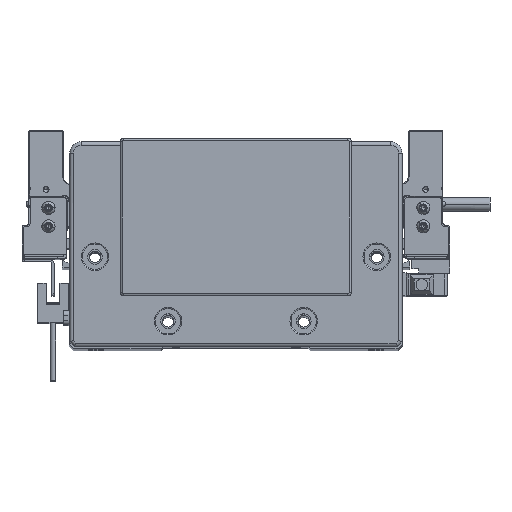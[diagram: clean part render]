
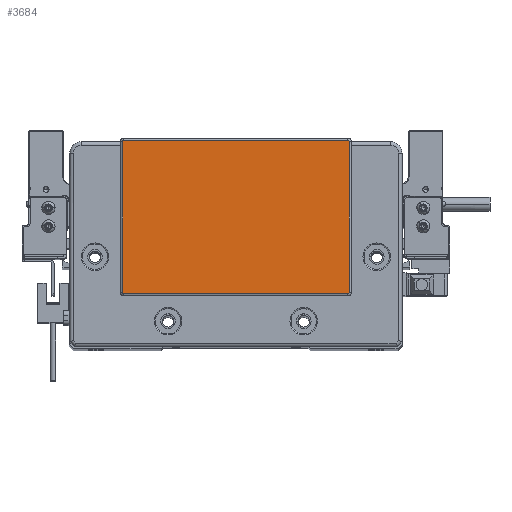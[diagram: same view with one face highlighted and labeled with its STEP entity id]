
A CAD part, top view. The second image highlights one B-rep face of the part: STEP entity #3684.
In plain terms, the highlighted planar face has unit normal (0, 0, 1) as drawn and (0, 0, -1) by its records, which use the part's own axes.
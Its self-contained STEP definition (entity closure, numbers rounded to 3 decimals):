
#722 = CARTESIAN_POINT ( 'NONE',  ( 48.75, 44.3, -2. ) ) ;
#1116 = VECTOR ( 'NONE', #20109, 1000. ) ;
#2124 = FACE_OUTER_BOUND ( 'NONE', #51289, .T. ) ;
#2521 = PLANE ( 'NONE',  #11505 ) ;
#3684 = ADVANCED_FACE ( 'NONE', ( #2124 ), #2521, .T. ) ;
#3773 = ORIENTED_EDGE ( 'NONE', *, *, #62090, .T. ) ;
#5589 = CARTESIAN_POINT ( 'NONE',  ( 49.25, -21.8, -2. ) ) ;
#5807 = EDGE_CURVE ( 'NONE', #69207, #40428, #40062, .T. ) ;
#6492 = CARTESIAN_POINT ( 'NONE',  ( 48.75, 44.3, -2. ) ) ;
#8270 = CARTESIAN_POINT ( 'NONE',  ( 48.75, 43.8, -2. ) ) ;
#9645 = CIRCLE ( 'NONE', #67420, 0.5 ) ;
#10090 = AXIS2_PLACEMENT_3D ( 'NONE', #75840, #16070, #22727 ) ;
#11505 = AXIS2_PLACEMENT_3D ( 'NONE', #43408, #19448, #68587 ) ;
#12524 = DIRECTION ( 'NONE',  ( -1., 0., 0. ) ) ;
#12961 = CARTESIAN_POINT ( 'NONE',  ( -49.25, 43.8, -2. ) ) ;
#13598 = AXIS2_PLACEMENT_3D ( 'NONE', #8270, #31497, #55459 ) ;
#13867 = EDGE_CURVE ( 'NONE', #54807, #45460, #9645, .T. ) ;
#16070 = DIRECTION ( 'NONE',  ( 0., 0., -1. ) ) ;
#18915 = EDGE_CURVE ( 'NONE', #27987, #71510, #72613, .T. ) ;
#18951 = CARTESIAN_POINT ( 'NONE',  ( -48.75, -22.3, -2. ) ) ;
#19161 = DIRECTION ( 'NONE',  ( 0., 0., -1. ) ) ;
#19448 = DIRECTION ( 'NONE',  ( 0., 0., -1. ) ) ;
#20065 = CARTESIAN_POINT ( 'NONE',  ( 49.25, 43.8, -2. ) ) ;
#20109 = DIRECTION ( 'NONE',  ( 0., -1., 0. ) ) ;
#21304 = CARTESIAN_POINT ( 'NONE',  ( -48.75, -22.3, -2. ) ) ;
#22003 = EDGE_CURVE ( 'NONE', #71510, #54807, #38174, .T. ) ;
#22298 = CIRCLE ( 'NONE', #23545, 0.5 ) ;
#22727 = DIRECTION ( 'NONE',  ( -1., 0., 0. ) ) ;
#23403 = EDGE_CURVE ( 'NONE', #40428, #59206, #31413, .T. ) ;
#23545 = AXIS2_PLACEMENT_3D ( 'NONE', #48252, #42364, #12524 ) ;
#25695 = DIRECTION ( 'NONE',  ( 1., 0., 0. ) ) ;
#27987 = VERTEX_POINT ( 'NONE', #6492 ) ;
#28266 = CARTESIAN_POINT ( 'NONE',  ( -49.25, 43.8, -2. ) ) ;
#30366 = VECTOR ( 'NONE', #74034, 1000. ) ;
#30384 = ORIENTED_EDGE ( 'NONE', *, *, #51763, .T. ) ;
#31413 = CIRCLE ( 'NONE', #10090, 0.5 ) ;
#31497 = DIRECTION ( 'NONE',  ( 0., 0., -1. ) ) ;
#33841 = CARTESIAN_POINT ( 'NONE',  ( 48.75, -22.3, -2. ) ) ;
#35817 = ORIENTED_EDGE ( 'NONE', *, *, #18915, .T. ) ;
#37118 = ORIENTED_EDGE ( 'NONE', *, *, #5807, .T. ) ;
#38035 = VECTOR ( 'NONE', #25695, 1000. ) ;
#38174 = LINE ( 'NONE', #73993, #1116 ) ;
#40062 = LINE ( 'NONE', #28266, #40406 ) ;
#40406 = VECTOR ( 'NONE', #70367, 1000. ) ;
#40428 = VERTEX_POINT ( 'NONE', #12961 ) ;
#42364 = DIRECTION ( 'NONE',  ( 0., 0., -1. ) ) ;
#43408 = CARTESIAN_POINT ( 'NONE',  ( 0., 0., -2. ) ) ;
#43987 = VERTEX_POINT ( 'NONE', #18951 ) ;
#45460 = VERTEX_POINT ( 'NONE', #33841 ) ;
#47094 = ORIENTED_EDGE ( 'NONE', *, *, #70462, .T. ) ;
#48252 = CARTESIAN_POINT ( 'NONE',  ( -48.75, -21.8, -2. ) ) ;
#49018 = CARTESIAN_POINT ( 'NONE',  ( 48.75, -21.8, -2. ) ) ;
#50880 = ORIENTED_EDGE ( 'NONE', *, *, #23403, .T. ) ;
#51289 = EDGE_LOOP ( 'NONE', ( #76603, #56397, #3773, #47094, #37118, #50880, #30384, #35817 ) ) ;
#51763 = EDGE_CURVE ( 'NONE', #59206, #27987, #71549, .T. ) ;
#54807 = VERTEX_POINT ( 'NONE', #5589 ) ;
#55459 = DIRECTION ( 'NONE',  ( -1., 0., 0. ) ) ;
#56397 = ORIENTED_EDGE ( 'NONE', *, *, #13867, .T. ) ;
#56675 = LINE ( 'NONE', #21304, #30366 ) ;
#59008 = CARTESIAN_POINT ( 'NONE',  ( -49.25, -21.8, -2. ) ) ;
#59206 = VERTEX_POINT ( 'NONE', #75593 ) ;
#62090 = EDGE_CURVE ( 'NONE', #45460, #43987, #56675, .T. ) ;
#67127 = DIRECTION ( 'NONE',  ( -1., 0., 0. ) ) ;
#67420 = AXIS2_PLACEMENT_3D ( 'NONE', #49018, #19161, #67127 ) ;
#68587 = DIRECTION ( 'NONE',  ( -1., 0., 0. ) ) ;
#69207 = VERTEX_POINT ( 'NONE', #59008 ) ;
#70367 = DIRECTION ( 'NONE',  ( 0., 1., 0. ) ) ;
#70462 = EDGE_CURVE ( 'NONE', #43987, #69207, #22298, .T. ) ;
#71510 = VERTEX_POINT ( 'NONE', #20065 ) ;
#71549 = LINE ( 'NONE', #722, #38035 ) ;
#72613 = CIRCLE ( 'NONE', #13598, 0.5 ) ;
#73993 = CARTESIAN_POINT ( 'NONE',  ( 49.25, -21.8, -2. ) ) ;
#74034 = DIRECTION ( 'NONE',  ( -1., 0., 0. ) ) ;
#75593 = CARTESIAN_POINT ( 'NONE',  ( -48.75, 44.3, -2. ) ) ;
#75840 = CARTESIAN_POINT ( 'NONE',  ( -48.75, 43.8, -2. ) ) ;
#76603 = ORIENTED_EDGE ( 'NONE', *, *, #22003, .T. ) ;
